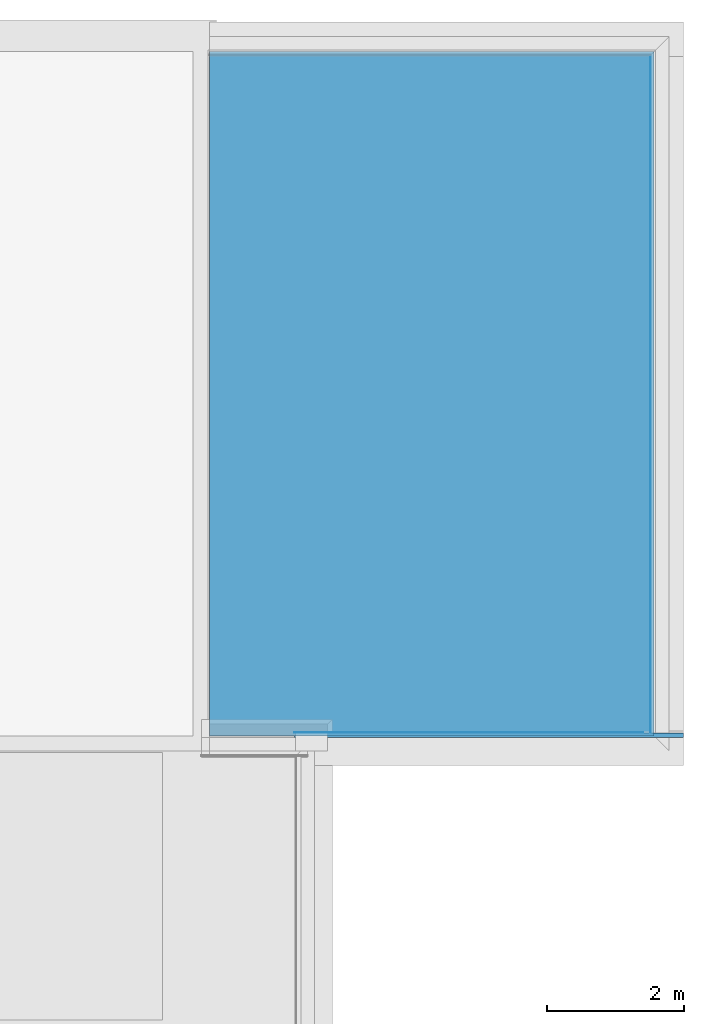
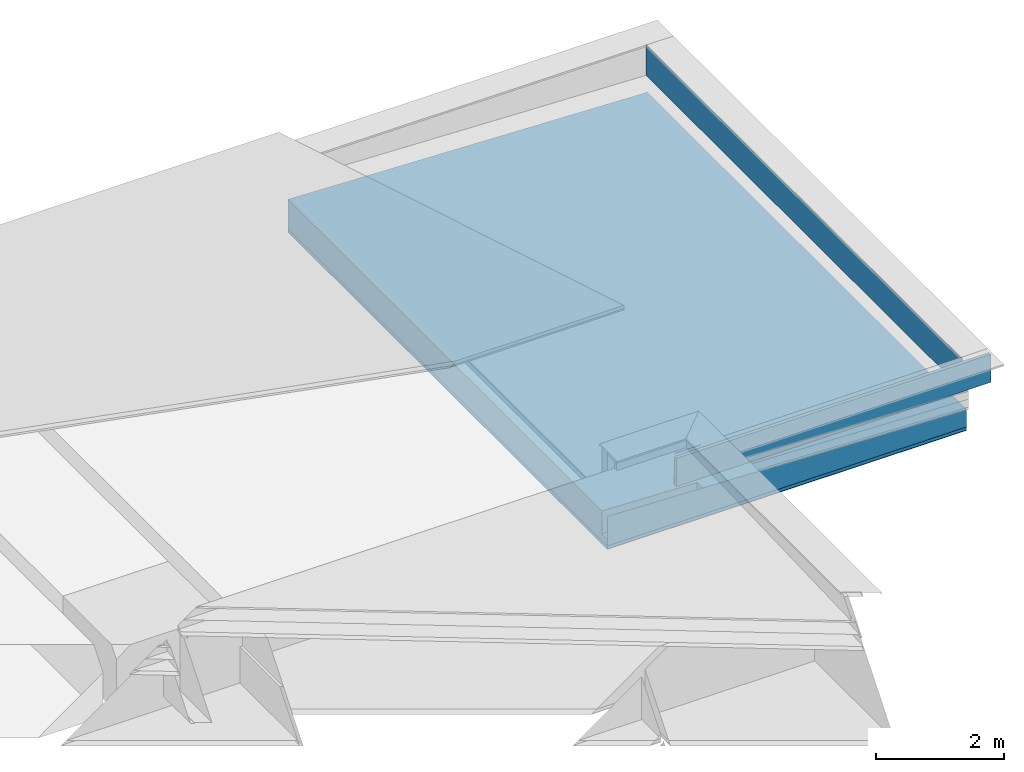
# One storey, part 11 of 13: 6 building element parts, 3 elements without a shape of their own.
"""IFC2X3 building model written with IfcOpenShell, lengths in metres."""

from ifc_helpers import new_model, entity, si_unit, converted_unit, derived_unit, money_unit, direction, frame, origin_with_axes, place, context, subcontext, project, spatial, polyline, outline, extrude, boolean, faceted_brep, material, type_object, element, aggregate, save


model = new_model("IFC2X3")

# Units and contexts
model_context = context("Model", 3, precision=1e-05, world=origin_with_axes(), true_north=direction((0.0, 1.0)))
body_context = subcontext(model_context, "Body", "Model", "MODEL_VIEW")
ifc_project = project(units=[si_unit("LENGTHUNIT", "METRE"), si_unit("AREAUNIT", "SQUARE_METRE"), si_unit("VOLUMEUNIT", "CUBIC_METRE"), converted_unit("PLANEANGLEUNIT", "DEGREE", entity("IfcPlaneAngleMeasure", 0.0174532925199), si_unit("PLANEANGLEUNIT", "RADIAN"), dimensions=[0, 0, 0, 0, 0, 0, 0]), money_unit("CHF"), converted_unit("TIMEUNIT", "Year", entity("IfcTimeMeasure", 31556926.0), si_unit("TIMEUNIT", "SECOND"), dimensions=[0, 0, 1, 0, 0, 0, 0]), si_unit("MASSUNIT", "GRAM", prefix="KILO"), si_unit("THERMODYNAMICTEMPERATUREUNIT", "DEGREE_CELSIUS"), si_unit("LUMINOUSINTENSITYUNIT", "LUMEN"), si_unit("ENERGYUNIT", "JOULE", prefix="MEGA"), derived_unit("THERMALCONDUCTANCEUNIT", [(si_unit("POWERUNIT", "WATT"), 1), (si_unit("LENGTHUNIT", "METRE"), -1), (si_unit("THERMODYNAMICTEMPERATUREUNIT", "KELVIN"), -1)]), derived_unit("SPECIFICHEATCAPACITYUNIT", [(si_unit("ENERGYUNIT", "JOULE"), 1), (si_unit("MASSUNIT", "GRAM", prefix="KILO"), -1), (si_unit("THERMODYNAMICTEMPERATUREUNIT", "KELVIN"), -1)]), derived_unit("MASSDENSITYUNIT", [(si_unit("MASSUNIT", "GRAM", prefix="KILO"), 1), (si_unit("VOLUMEUNIT", "CUBIC_METRE"), -1)])], contexts=[model_context])

# Site, building, storey
site_placement = place(None, origin_with_axes())
site = spatial("IfcSite", under=ifc_project, at=site_placement, Name="Site", CompositionType="ELEMENT")
building_placement = place(site_placement, origin_with_axes())
building = spatial("IfcBuilding", under=site, at=building_placement, Name="Bâtiment", CompositionType="ELEMENT")
storey_placement = place(building_placement, frame((0.0, 0.0, 3.0), z_axis=(0.0, 0.0, 1.0), x_axis=(1.0, 0.0, 0.0)))
storey = spatial("IfcBuildingStorey", under=building, at=storey_placement, Name="Toitures", CompositionType="ELEMENT", Elevation=3.0)

# Slab, building element parts
slab_type = type_object("IfcSlabType", Name="Plafond dalles minérale 2570", PredefinedType="FLOOR")
slab_placement = place(storey_placement, frame((32.3194697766, 25.1001256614, 2.17), z_axis=(0.0, 0.0, 1.0), x_axis=(1.0, 0.0, 0.0)))
slab = element("IfcSlab", 1, at=slab_placement, inside=storey, type_object=slab_type, Name="DALLE-004", PredefinedType="FLOOR")
ifc_material_1 = material(Name="Plaque fibre-gypse")
building_element_part_1_placement = place(slab_placement, origin_with_axes())
building_element_part_1 = element("IfcBuildingElementPart", 2, at=building_element_part_1_placement, material=ifc_material_1, Name="Plaque fibre-gypse", context=body_context, shape_type="CSG", body=[
    boolean("DIFFERENCE", extrude(outline(polyline([(0.0, 0.0), (0.0, -9.98012566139), (6.48, -9.98012566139), (6.48, 0.0), (0.0, 0.0)])), frame((0.0, 0.0, -2.57), z_axis=(0.0, 0.0, 1.0), x_axis=(1.0, 0.0, 0.0)), (0.0, 0.0, 1.0), 0.01), faceted_brep([(6.48, -9.98012566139, -2.16519420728), (6.48, 0.0, -2.16519420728), (6.48, 0.0, 0.0), (6.48, -9.98012566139, 0.0), (0.0, 0.0, -1.93839420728), (0.0, -9.98012566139, -1.93839420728), (0.0, -9.98000003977, -1.93839420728), (1.72, -9.98000003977, -1.99859420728), (1.71999999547, -9.80700003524, -1.99859420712), (0.0, -9.80700003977, -1.93839420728), (0.0, 0.0, 0.0), (0.0, -9.98012566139, 0.0), (0.0, -9.80700003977, -2.38), (0.0, -9.98000003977, -2.38), (1.72, -9.98000003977, -2.38), (1.72, -9.80700003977, -2.38)], [[[0, 1, 2, 3]], [[4, 1, 0, 5, 6, 7, 8, 9]], [[1, 4, 10, 2]], [[3, 2, 10, 11]], [[5, 0, 3, 11]], [[6, 5, 11, 10, 4, 9, 12, 13]], [[6, 13, 14, 7]], [[7, 14, 15, 8]], [[12, 9, 8, 15]], [[13, 12, 15, 14]]])),
])
ifc_material_2 = material(Name="Aluminium")
building_element_part_2_placement = place(slab_placement, origin_with_axes())
building_element_part_2 = element("IfcBuildingElementPart", 3, at=building_element_part_2_placement, material=ifc_material_2, Name="Aluminium", context=body_context, shape_type="CSG", body=[
    boolean("DIFFERENCE", extrude(outline(polyline([(0.0, 0.0), (0.0, -9.98012566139), (6.48, -9.98012566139), (6.48, 0.0), (0.0, 0.0)])), frame((0.0, 0.0, -2.56), z_axis=(0.0, 0.0, 1.0), x_axis=(1.0, 0.0, 0.0)), (0.0, 0.0, 1.0), 0.06), faceted_brep([(6.48, -9.98012566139, -2.16519420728), (6.48, 0.0, -2.16519420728), (6.48, 0.0, 0.0), (6.48, -9.98012566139, 0.0), (0.0, 0.0, -1.93839420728), (0.0, -9.98012566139, -1.93839420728), (0.0, -9.98000003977, -1.93839420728), (1.72, -9.98000003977, -1.99859420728), (1.71999999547, -9.80700003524, -1.99859420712), (0.0, -9.80700003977, -1.93839420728), (0.0, 0.0, 0.0), (0.0, -9.98012566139, 0.0), (0.0, -9.80700003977, -2.38), (0.0, -9.98000003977, -2.38), (1.72, -9.98000003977, -2.38), (1.72, -9.80700003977, -2.38)], [[[0, 1, 2, 3]], [[4, 1, 0, 5, 6, 7, 8, 9]], [[1, 4, 10, 2]], [[3, 2, 10, 11]], [[5, 0, 3, 11]], [[6, 5, 11, 10, 4, 9, 12, 13]], [[6, 13, 14, 7]], [[7, 14, 15, 8]], [[12, 9, 8, 15]], [[13, 12, 15, 14]]])),
])
ifc_material_3 = material(Name="Vide faux plafond")
building_element_part_3_placement = place(slab_placement, origin_with_axes())
building_element_part_3 = element("IfcBuildingElementPart", 4, at=building_element_part_3_placement, material=ifc_material_3, Name="Vide faux plafond", context=body_context, shape_type="CSG", body=[
    boolean("DIFFERENCE", extrude(outline(polyline([(0.0, 0.0), (0.0, -9.98012566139), (6.48, -9.98012566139), (6.48, 0.0), (0.0, 0.0)])), frame((0.0, 0.0, -2.5), z_axis=(0.0, 0.0, 1.0), x_axis=(1.0, 0.0, 0.0)), (0.0, 0.0, 1.0), 2.5), faceted_brep([(6.48, -9.98012566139, -2.16519420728), (6.48, 0.0, -2.16519420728), (6.48, 0.0, 0.0), (6.48, -9.98012566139, 0.0), (0.0, 0.0, -1.93839420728), (0.0, -9.98012566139, -1.93839420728), (0.0, -9.98000003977, -1.93839420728), (1.72, -9.98000003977, -1.99859420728), (1.71999999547, -9.80700003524, -1.99859420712), (0.0, -9.80700003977, -1.93839420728), (0.0, 0.0, 0.0), (0.0, -9.98012566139, 0.0), (0.0, -9.80700003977, -2.38), (0.0, -9.98000003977, -2.38), (1.72, -9.98000003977, -2.38), (1.72, -9.80700003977, -2.38)], [[[0, 1, 2, 3]], [[4, 1, 0, 5, 6, 7, 8, 9]], [[1, 4, 10, 2]], [[3, 2, 10, 11]], [[5, 0, 3, 11]], [[6, 5, 11, 10, 4, 9, 12, 13]], [[6, 13, 14, 7]], [[7, 14, 15, 8]], [[12, 9, 8, 15]], [[13, 12, 15, 14]]])),
])
aggregate(slab, [building_element_part_1, building_element_part_2, building_element_part_3])

# Beam, building element part
beam_type = type_object("IfcBeamType", Name="couvertine mur iso 505 x 590", PredefinedType="BEAM")
beam_1_placement = place(storey_placement, frame((38.9194697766, 25.2201256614, 0.97), z_axis=(0.0, 0.0, 1.0), x_axis=(-1.0, 0.0, 0.0)))
beam_1 = element("IfcBeam", 5, at=beam_1_placement, inside=storey, type_object=beam_type, Name="POUTRE-002", ObjectType="BEAM")
ifc_material_4 = material(Name="Etanchéité")
building_element_part_4_placement = place(beam_1_placement, origin_with_axes())
building_element_part_4 = element("IfcBuildingElementPart", 6, at=building_element_part_4_placement, material=ifc_material_4, Name="Etanchéité", context=body_context, shape_type="CSG", body=[
    boolean("DIFFERENCE", boolean("DIFFERENCE", boolean("DIFFERENCE", boolean("DIFFERENCE", boolean("DIFFERENCE", boolean("DIFFERENCE", boolean("DIFFERENCE", boolean("DIFFERENCE", extrude(outline(polyline([(0.164999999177, -0.0549999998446), (0.164999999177, -0.589639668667), (0.174999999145, -0.589639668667), (0.174999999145, -0.005), (0.164999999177, -0.005), (0.164999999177, -0.0549999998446)])), frame((0.0, 10.52702, 0.0), z_axis=(0.0, -1.0, 0.0), x_axis=(1.0, 0.0, 0.0)), (0.0, 0.0, 1.0), 10.83704), faceted_brep([(0.164999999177, 10.0520000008, -0.0549999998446), (0.164999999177, 10.0520000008, -0.005), (0.164999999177, 10.52702, -0.005), (0.164999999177, 10.52702, -0.0549999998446), (0.174999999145, 10.0420000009, -0.005), (0.164999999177, 10.0520000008, -0.589639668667), (0.174999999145, 10.0420000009, -0.589639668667), (0.174999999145, 10.52702, -0.005), (0.174999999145, 10.52702, -0.589639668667), (0.164999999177, 10.52702, -0.589639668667)], [[[0, 1, 2, 3]], [[4, 1, 0, 5, 6]], [[1, 4, 7, 2]], [[8, 9, 3, 2, 7]], [[5, 0, 3, 9]], [[6, 5, 9, 8]], [[4, 6, 8, 7]]])), faceted_brep([(0.174999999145, 0.174999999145, -0.005), (0.164999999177, 0.164999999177, -0.005), (0.164999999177, -0.31002, -0.005), (0.174999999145, -0.31002, -0.005), (0.164999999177, 0.164999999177, -0.0549999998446), (0.174999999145, 0.174999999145, -0.589639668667), (0.164999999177, 0.164999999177, -0.589639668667), (0.164999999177, -0.31002, -0.0549999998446), (0.164999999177, -0.31002, -0.589639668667), (0.174999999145, -0.31002, -0.589639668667)], [[[0, 1, 2, 3]], [[4, 1, 0, 5, 6]], [[1, 4, 7, 2]], [[3, 2, 7, 8, 9]], [[5, 0, 3, 9]], [[6, 5, 9, 8]], [[4, 6, 8, 7]]])), faceted_brep([(-0.31, 10.52702, -0.03000000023), (-0.31, 10.527, -0.03000000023), (-0.31, 10.527, -1.56462309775e-09), (-0.31, 10.52702, -1.56462309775e-09), (-0.3049999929, 10.52702, -0.03000000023), (-0.3049999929, 10.5219999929, -0.03000000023), (0.194999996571, 10.0220000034, -0.03000000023), (0.194999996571, 10.0220000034, -1.56462309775e-09), (-0.3049999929, 10.5219999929, -0.0049999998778), (-0.1, 10.317, -0.005), (0.165, 10.052, -0.005), (0.175000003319, 10.0419999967, -0.0049999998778), (0.189999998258, 10.0270000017, -0.0049999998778), (0.189999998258, 10.0270000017, -0.03000000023), (0.194999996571, 10.52702, -1.56462309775e-09), (0.194999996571, 10.52702, -0.03000000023), (0.189999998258, 10.52702, -0.03000000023), (0.189999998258, 10.52702, -0.0049999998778), (0.175000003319, 10.52702, -0.0049999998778), (0.164999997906, 10.52702, -0.0049999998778), (-0.100000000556, 10.52702, -0.0049999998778), (-0.3049999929, 10.52702, -0.0049999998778)], [[[0, 1, 2, 3]], [[4, 5, 1, 0]], [[6, 7, 2, 1, 5, 8, 9, 10, 11, 12, 13]], [[3, 2, 7, 14]], [[0, 3, 14, 15, 16, 17, 18, 19, 20, 21, 4]], [[21, 8, 5, 4]], [[14, 7, 6, 15]], [[20, 9, 8, 21]], [[19, 10, 9, 20]], [[18, 11, 10, 19]], [[17, 12, 11, 18]], [[16, 13, 12, 17]], [[15, 6, 13, 16]]])), faceted_brep([(0.194999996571, -0.31002, -1.56462309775e-09), (0.194999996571, 0.194999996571, -1.56462309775e-09), (-0.31, -0.31, -1.56462309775e-09), (-0.31, -0.31002, -1.56462309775e-09), (0.194999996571, -0.31002, -0.03000000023), (0.194999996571, 0.194999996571, -0.03000000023), (-0.3049999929, -0.3049999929, -0.03000000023), (-0.31, -0.31, -0.03000000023), (0.189999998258, 0.189999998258, -0.03000000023), (0.189999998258, 0.189999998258, -0.0049999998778), (0.175000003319, 0.175000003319, -0.0049999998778), (0.165, 0.165, -0.005), (-0.1, -0.1, -0.005), (-0.3049999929, -0.3049999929, -0.0049999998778), (-0.31, -0.31002, -0.03000000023), (0.189999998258, -0.31002, -0.03000000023), (-0.3049999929, -0.31002, -0.03000000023), (-0.3049999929, -0.31002, -0.0049999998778), (-0.100000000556, -0.31002, -0.0049999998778), (0.164999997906, -0.31002, -0.0049999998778), (0.175000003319, -0.31002, -0.0049999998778), (0.189999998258, -0.31002, -0.0049999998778)], [[[0, 1, 2, 3]], [[4, 5, 1, 0]], [[6, 7, 2, 1, 5, 8, 9, 10, 11, 12, 13]], [[3, 2, 7, 14]], [[15, 4, 0, 3, 14, 16, 17, 18, 19, 20, 21]], [[15, 8, 5, 4]], [[14, 7, 6, 16]], [[21, 9, 8, 15]], [[20, 10, 9, 21]], [[19, 11, 10, 20]], [[18, 12, 11, 19]], [[17, 13, 12, 18]], [[16, 6, 13, 17]]])), faceted_brep([(0.0999999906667, 10.52702, -0.589639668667), (0.0999999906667, 10.1170000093, -0.589639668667), (0.0999999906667, 10.1170000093, -0.0549999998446), (0.0999999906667, 10.52702, -0.0549999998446), (0.164999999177, 10.52702, -0.589639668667), (0.164999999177, 10.0520000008, -0.589639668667), (0.16499999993, 10.0520000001, -0.0549999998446), (0.164999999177, 10.52702, -0.0549999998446)], [[[0, 1, 2, 3]], [[4, 5, 1, 0]], [[5, 6, 2, 1]], [[3, 2, 6, 7]], [[7, 4, 0, 3]], [[7, 6, 5, 4]]])), faceted_brep([(0.164999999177, -0.31002, -0.0549999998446), (0.16499999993, 0.16499999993, -0.0549999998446), (0.0999999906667, 0.0999999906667, -0.0549999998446), (0.0999999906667, -0.31002, -0.0549999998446), (0.164999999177, -0.31002, -0.589639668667), (0.164999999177, 0.164999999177, -0.589639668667), (0.0999999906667, 0.0999999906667, -0.589639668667), (0.0999999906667, -0.31002, -0.589639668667)], [[[0, 1, 2, 3]], [[4, 5, 1, 0]], [[5, 6, 2, 1]], [[3, 2, 6, 7]], [[0, 3, 7, 4]], [[7, 6, 5, 4]]])), faceted_brep([(-0.1, 10.52702, -0.055), (-0.1, 10.317, -0.055), (-0.1, 10.317, -0.005), (-0.1, 10.52702, -0.005), (0.0999999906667, 10.52702, -0.0549999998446), (0.0999999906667, 10.1170000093, -0.0549999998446), (0.165, 10.052, -0.005), (0.16499999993, 10.0520000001, -0.055), (0.165, 10.52702, -0.005), (0.165, 10.52702, -0.055)], [[[0, 1, 2, 3]], [[4, 5, 1, 0]], [[6, 2, 1, 5, 7]], [[3, 2, 6, 8]], [[4, 0, 3, 8, 9]], [[9, 7, 5, 4]], [[8, 6, 7, 9]]])), faceted_brep([(0.165, -0.31002, -0.005), (0.165, 0.165, -0.005), (-0.1, -0.1, -0.005), (-0.1, -0.31002, -0.005), (0.165, -0.31002, -0.055), (0.16499999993, 0.16499999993, -0.055), (0.0999999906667, 0.0999999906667, -0.0549999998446), (-0.1, -0.1, -0.055), (-0.1, -0.31002, -0.055), (0.0999999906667, -0.31002, -0.0549999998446)], [[[0, 1, 2, 3]], [[4, 5, 1, 0]], [[6, 7, 2, 1, 5]], [[3, 2, 7, 8]], [[4, 0, 3, 8, 9]], [[9, 6, 5, 4]], [[8, 7, 6, 9]]])),
])
aggregate(beam_1, [building_element_part_4])

# Beam, building element parts
beam_2_placement = place(storey_placement, frame((38.9194697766, 15.0031256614, 0.97), z_axis=(0.0, 0.0, 1.0), x_axis=(0.0, 1.0, 0.0)))
beam_2 = element("IfcBeam", 7, at=beam_2_placement, inside=storey, type_object=beam_type, Name="POUTRE-003", ObjectType="BEAM")
building_element_part_5_placement = place(beam_2_placement, origin_with_axes())
building_element_part_5 = element("IfcBuildingElementPart", 8, at=building_element_part_5_placement, material=ifc_material_4, Name="Etanchéité", context=body_context, shape_type="CSG", body=[
    boolean("DIFFERENCE", boolean("DIFFERENCE", boolean("DIFFERENCE", boolean("DIFFERENCE", boolean("DIFFERENCE", boolean("DIFFERENCE", boolean("DIFFERENCE", boolean("DIFFERENCE", extrude(outline(polyline([(0.164999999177, -0.0549999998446), (0.164999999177, -0.589639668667), (0.174999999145, -0.589639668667), (0.174999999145, -0.005), (0.164999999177, -0.005), (0.164999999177, -0.0549999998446)])), frame((0.0, 5.36502, 0.0), z_axis=(0.0, -1.0, 0.0), x_axis=(1.0, 0.0, 0.0)), (0.0, 0.0, 1.0), 5.67504), faceted_brep([(0.174999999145, 5.365, -0.0896396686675), (0.174999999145, 5.365, -0.411392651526), (0.174999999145, 0.272228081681, -0.589639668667), (0.174999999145, 5.36502, -0.589639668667), (0.174999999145, 5.36502, -0.005), (0.174999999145, 5.34499999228, -0.005), (0.174999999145, 5.34499999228, -0.0896396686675), (0.164999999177, 5.365, -0.0896396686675), (0.164999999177, 5.365, -0.411392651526), (0.164999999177, 0.272228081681, -0.589639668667), (0.164999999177, 5.36502, -0.589639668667), (0.164999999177, 5.36502, -0.0549999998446), (0.164999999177, 5.36502, -0.005), (0.164999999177, 5.34499999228, -0.005), (0.164999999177, 5.34499999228, -0.0549999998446), (0.164999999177, 5.34499999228, -0.0896396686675)], [[[0, 1, 2, 3, 4, 5, 6]], [[1, 0, 7, 8]], [[9, 2, 1, 8]], [[2, 9, 10, 3]], [[3, 10, 11, 12, 4]], [[13, 5, 4, 12]], [[6, 5, 13, 14, 15]], [[0, 6, 15, 7]], [[15, 14, 11, 10, 9, 8, 7]], [[14, 13, 12, 11]]])), faceted_brep([(0.174999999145, 0.174999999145, -0.005), (0.164999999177, 0.164999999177, -0.005), (0.164999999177, -0.31002, -0.005), (0.174999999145, -0.31002, -0.005), (0.164999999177, 0.164999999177, -0.0549999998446), (0.174999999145, 0.174999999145, -0.589639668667), (0.164999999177, 0.164999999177, -0.589639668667), (0.164999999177, -0.31002, -0.0549999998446), (0.164999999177, -0.31002, -0.589639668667), (0.174999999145, -0.31002, -0.589639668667)], [[[0, 1, 2, 3]], [[4, 1, 0, 5, 6]], [[1, 4, 7, 2]], [[3, 2, 7, 8, 9]], [[5, 0, 3, 9]], [[6, 5, 9, 8]], [[4, 6, 8, 7]]])), faceted_brep([(0.116874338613, 5.34499999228, -1.56462309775e-09), (0.116999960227, 5.34499999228, -1.56462309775e-09), (0.116999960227, 4.88, -1.56462309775e-09), (0.194999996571, 4.88, -1.56462309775e-09), (0.194999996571, 5.36502, -1.56462309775e-09), (-0.31, 5.36502, -1.56462309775e-09), (-0.31, 4.88, -1.56462309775e-09), (0.116874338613, 4.88, -1.56462309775e-09), (0.116874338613, 5.07, -1.56462309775e-09), (0.116999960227, 5.34499999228, -0.005), (0.116874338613, 5.34499999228, -0.005), (0.116999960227, 4.88, -0.00499999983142), (0.189999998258, 4.88, -0.03000000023), (0.194999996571, 4.88, -0.03000000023), (0.165, 4.88, -0.005), (0.175000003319, 4.88, -0.0049999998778), (0.189999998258, 4.88, -0.0049999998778), (0.194999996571, 5.36502, -0.03000000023), (-0.31, 5.36502, -0.03000000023), (0.189999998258, 5.36502, -0.03000000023), (0.189999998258, 5.36502, -0.0049999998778), (0.175000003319, 5.36502, -0.0049999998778), (0.164999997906, 5.36502, -0.0049999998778), (-0.100000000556, 5.36502, -0.0049999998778), (-0.3049999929, 5.36502, -0.0049999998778), (-0.3049999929, 5.36502, -0.03000000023), (-0.31, 4.88, -0.03000000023), (0.116874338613, 4.88, -0.00499999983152), (-0.3049999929, 4.88, -0.03000000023), (-0.3049999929, 4.88, -0.0049999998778), (-0.1, 4.88, -0.005), (0.116874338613, 5.07, -0.00499999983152)], [[[0, 1, 2, 3, 4, 5, 6, 7, 8]], [[9, 1, 0, 10]], [[11, 2, 1, 9]], [[12, 13, 3, 2, 11, 14, 15, 16]], [[4, 3, 13, 17]], [[18, 5, 4, 17, 19, 20, 21, 22, 23, 24, 25]], [[18, 26, 6, 5]], [[27, 7, 6, 26, 28, 29, 30]], [[31, 8, 7, 27]], [[10, 0, 8, 31]], [[31, 27, 30, 23, 22, 14, 11, 9, 10]], [[17, 13, 12, 19]], [[21, 15, 14, 22]], [[20, 16, 15, 21]], [[19, 12, 16, 20]], [[23, 30, 29, 24]], [[24, 29, 28, 25]], [[25, 28, 26, 18]]])), faceted_brep([(0.194999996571, -0.31002, -1.56462309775e-09), (0.194999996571, 0.194999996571, -1.56462309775e-09), (-0.31, -0.31, -1.56462309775e-09), (-0.31, -0.31002, -1.56462309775e-09), (0.194999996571, -0.31002, -0.03000000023), (0.194999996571, 0.194999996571, -0.03000000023), (-0.3049999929, -0.3049999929, -0.03000000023), (-0.31, -0.31, -0.03000000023), (0.189999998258, 0.189999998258, -0.03000000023), (0.189999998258, 0.189999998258, -0.0049999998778), (0.175000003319, 0.175000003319, -0.0049999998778), (0.165, 0.165, -0.005), (-0.1, -0.1, -0.005), (-0.3049999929, -0.3049999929, -0.0049999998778), (-0.31, -0.31002, -0.03000000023), (0.189999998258, -0.31002, -0.03000000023), (-0.3049999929, -0.31002, -0.03000000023), (-0.3049999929, -0.31002, -0.0049999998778), (-0.100000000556, -0.31002, -0.0049999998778), (0.164999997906, -0.31002, -0.0049999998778), (0.175000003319, -0.31002, -0.0049999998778), (0.189999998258, -0.31002, -0.0049999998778)], [[[0, 1, 2, 3]], [[4, 5, 1, 0]], [[6, 7, 2, 1, 5, 8, 9, 10, 11, 12, 13]], [[3, 2, 7, 14]], [[15, 4, 0, 3, 14, 16, 17, 18, 19, 20, 21]], [[15, 8, 5, 4]], [[14, 7, 6, 16]], [[21, 9, 8, 15]], [[20, 10, 9, 21]], [[19, 11, 10, 20]], [[18, 12, 11, 19]], [[17, 13, 12, 18]], [[16, 6, 13, 17]]])), faceted_brep([(0.164999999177, 5.34499999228, -0.0896396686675), (0.164999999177, 5.365, -0.0896396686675), (0.164999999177, 5.365, -0.411392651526), (0.164999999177, 0.272228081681, -0.589639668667), (0.164999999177, 5.36502, -0.589639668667), (0.164999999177, 5.36502, -0.0549999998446), (0.164999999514, 5.34499999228, -0.0549999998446), (0.0999999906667, 5.365, -0.0896396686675), (0.0999999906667, 5.34499999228, -0.0896396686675), (0.0999999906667, 5.365, -0.411392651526), (0.0999999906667, 0.272228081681, -0.589639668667), (0.0999999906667, 5.36502, -0.589639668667), (0.0999999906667, 5.36502, -0.0549999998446), (0.0999999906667, 5.34499999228, -0.0549999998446)], [[[0, 1, 2, 3, 4, 5, 6]], [[7, 1, 0, 8]], [[9, 2, 1, 7]], [[9, 10, 3, 2]], [[4, 3, 10, 11]], [[5, 4, 11, 12]], [[12, 13, 6, 5]], [[8, 0, 6, 13]], [[7, 8, 13, 12, 11, 10, 9]]])), faceted_brep([(0.164999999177, -0.31002, -0.0549999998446), (0.16499999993, 0.16499999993, -0.0549999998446), (0.0999999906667, 0.0999999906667, -0.0549999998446), (0.0999999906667, -0.31002, -0.0549999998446), (0.164999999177, -0.31002, -0.589639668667), (0.164999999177, 0.164999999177, -0.589639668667), (0.0999999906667, 0.0999999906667, -0.589639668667), (0.0999999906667, -0.31002, -0.589639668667)], [[[0, 1, 2, 3]], [[4, 5, 1, 0]], [[5, 6, 2, 1]], [[3, 2, 6, 7]], [[0, 3, 7, 4]], [[7, 6, 5, 4]]])), faceted_brep([(-0.1, 5.36502, -0.005), (-0.1, 5.34499999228, -0.005), (0.165, 5.34499999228, -0.005), (0.165, 5.36502, -0.005), (-0.1, 5.36502, -0.055), (-0.1, 5.34499999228, -0.055), (0.0999999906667, 5.34499999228, -0.0549999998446), (0.164999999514, 5.34499999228, -0.055), (0.165, 5.36502, -0.055), (0.0999999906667, 5.36502, -0.0549999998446)], [[[0, 1, 2, 3]], [[4, 5, 1, 0]], [[6, 7, 2, 1, 5]], [[3, 2, 7, 8]], [[9, 4, 0, 3, 8]], [[9, 6, 5, 4]], [[8, 7, 6, 9]]])), faceted_brep([(0.165, -0.31002, -0.005), (0.165, 0.165, -0.005), (-0.1, -0.1, -0.005), (-0.1, -0.31002, -0.005), (0.165, -0.31002, -0.055), (0.16499999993, 0.16499999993, -0.055), (0.0999999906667, 0.0999999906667, -0.0549999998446), (-0.1, -0.1, -0.055), (-0.1, -0.31002, -0.055), (0.0999999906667, -0.31002, -0.0549999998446)], [[[0, 1, 2, 3]], [[4, 5, 1, 0]], [[6, 7, 2, 1, 5]], [[3, 2, 7, 8]], [[4, 0, 3, 8, 9]], [[9, 6, 5, 4]], [[8, 7, 6, 9]]])),
])
ifc_material_5 = material(Name="Isolation - Polyuréthane (extérieur)")
building_element_part_6_placement = place(beam_2_placement, origin_with_axes())
building_element_part_6 = element("IfcBuildingElementPart", 9, at=building_element_part_6_placement, material=ifc_material_5, Name="Isolation - Polyuréthane (extérieur)", context=body_context, shape_type="CSG", body=[
    boolean("DIFFERENCE", boolean("DIFFERENCE", boolean("DIFFERENCE", boolean("DIFFERENCE", boolean("DIFFERENCE", boolean("DIFFERENCE", boolean("DIFFERENCE", boolean("DIFFERENCE", extrude(outline(polyline([(0.0999999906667, -0.589639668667), (0.164999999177, -0.589639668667), (0.164999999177, -0.0549999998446), (0.0999999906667, -0.0549999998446), (0.0999999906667, -0.589639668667)])), frame((0.0, 5.36502, 0.0), z_axis=(0.0, -1.0, 0.0), x_axis=(1.0, 0.0, 0.0)), (0.0, 0.0, 1.0), 5.67504), faceted_brep([(0.174999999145, 5.365, -0.0896396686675), (0.174999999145, 5.365, -0.411392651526), (0.174999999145, 0.272228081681, -0.589639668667), (0.174999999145, 5.36502, -0.589639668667), (0.174999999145, 5.36502, -0.005), (0.174999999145, 5.34499999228, -0.005), (0.174999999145, 5.34499999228, -0.0896396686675), (0.164999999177, 5.365, -0.0896396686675), (0.164999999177, 5.365, -0.411392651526), (0.164999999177, 0.272228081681, -0.589639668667), (0.164999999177, 5.36502, -0.589639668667), (0.164999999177, 5.36502, -0.0549999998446), (0.164999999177, 5.36502, -0.005), (0.164999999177, 5.34499999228, -0.005), (0.164999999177, 5.34499999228, -0.0549999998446), (0.164999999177, 5.34499999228, -0.0896396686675)], [[[0, 1, 2, 3, 4, 5, 6]], [[1, 0, 7, 8]], [[9, 2, 1, 8]], [[2, 9, 10, 3]], [[3, 10, 11, 12, 4]], [[13, 5, 4, 12]], [[6, 5, 13, 14, 15]], [[0, 6, 15, 7]], [[15, 14, 11, 10, 9, 8, 7]], [[14, 13, 12, 11]]])), faceted_brep([(0.174999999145, 0.174999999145, -0.005), (0.164999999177, 0.164999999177, -0.005), (0.164999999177, -0.31002, -0.005), (0.174999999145, -0.31002, -0.005), (0.164999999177, 0.164999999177, -0.0549999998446), (0.174999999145, 0.174999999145, -0.589639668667), (0.164999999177, 0.164999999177, -0.589639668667), (0.164999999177, -0.31002, -0.0549999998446), (0.164999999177, -0.31002, -0.589639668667), (0.174999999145, -0.31002, -0.589639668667)], [[[0, 1, 2, 3]], [[4, 1, 0, 5, 6]], [[1, 4, 7, 2]], [[3, 2, 7, 8, 9]], [[5, 0, 3, 9]], [[6, 5, 9, 8]], [[4, 6, 8, 7]]])), faceted_brep([(0.116874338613, 5.34499999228, -1.56462309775e-09), (0.116999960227, 5.34499999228, -1.56462309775e-09), (0.116999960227, 4.88, -1.56462309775e-09), (0.194999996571, 4.88, -1.56462309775e-09), (0.194999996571, 5.36502, -1.56462309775e-09), (-0.31, 5.36502, -1.56462309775e-09), (-0.31, 4.88, -1.56462309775e-09), (0.116874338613, 4.88, -1.56462309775e-09), (0.116874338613, 5.07, -1.56462309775e-09), (0.116999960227, 5.34499999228, -0.005), (0.116874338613, 5.34499999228, -0.005), (0.116999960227, 4.88, -0.00499999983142), (0.189999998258, 4.88, -0.03000000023), (0.194999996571, 4.88, -0.03000000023), (0.165, 4.88, -0.005), (0.175000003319, 4.88, -0.0049999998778), (0.189999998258, 4.88, -0.0049999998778), (0.194999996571, 5.36502, -0.03000000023), (-0.31, 5.36502, -0.03000000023), (0.189999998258, 5.36502, -0.03000000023), (0.189999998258, 5.36502, -0.0049999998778), (0.175000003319, 5.36502, -0.0049999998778), (0.164999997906, 5.36502, -0.0049999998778), (-0.100000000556, 5.36502, -0.0049999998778), (-0.3049999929, 5.36502, -0.0049999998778), (-0.3049999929, 5.36502, -0.03000000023), (-0.31, 4.88, -0.03000000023), (0.116874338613, 4.88, -0.00499999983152), (-0.3049999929, 4.88, -0.03000000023), (-0.3049999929, 4.88, -0.0049999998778), (-0.1, 4.88, -0.005), (0.116874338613, 5.07, -0.00499999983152)], [[[0, 1, 2, 3, 4, 5, 6, 7, 8]], [[9, 1, 0, 10]], [[11, 2, 1, 9]], [[12, 13, 3, 2, 11, 14, 15, 16]], [[4, 3, 13, 17]], [[18, 5, 4, 17, 19, 20, 21, 22, 23, 24, 25]], [[18, 26, 6, 5]], [[27, 7, 6, 26, 28, 29, 30]], [[31, 8, 7, 27]], [[10, 0, 8, 31]], [[31, 27, 30, 23, 22, 14, 11, 9, 10]], [[17, 13, 12, 19]], [[21, 15, 14, 22]], [[20, 16, 15, 21]], [[19, 12, 16, 20]], [[23, 30, 29, 24]], [[24, 29, 28, 25]], [[25, 28, 26, 18]]])), faceted_brep([(0.194999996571, -0.31002, -1.56462309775e-09), (0.194999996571, 0.194999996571, -1.56462309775e-09), (-0.31, -0.31, -1.56462309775e-09), (-0.31, -0.31002, -1.56462309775e-09), (0.194999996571, -0.31002, -0.03000000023), (0.194999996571, 0.194999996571, -0.03000000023), (-0.3049999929, -0.3049999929, -0.03000000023), (-0.31, -0.31, -0.03000000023), (0.189999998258, 0.189999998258, -0.03000000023), (0.189999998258, 0.189999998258, -0.0049999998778), (0.175000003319, 0.175000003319, -0.0049999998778), (0.165, 0.165, -0.005), (-0.1, -0.1, -0.005), (-0.3049999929, -0.3049999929, -0.0049999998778), (-0.31, -0.31002, -0.03000000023), (0.189999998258, -0.31002, -0.03000000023), (-0.3049999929, -0.31002, -0.03000000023), (-0.3049999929, -0.31002, -0.0049999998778), (-0.100000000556, -0.31002, -0.0049999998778), (0.164999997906, -0.31002, -0.0049999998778), (0.175000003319, -0.31002, -0.0049999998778), (0.189999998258, -0.31002, -0.0049999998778)], [[[0, 1, 2, 3]], [[4, 5, 1, 0]], [[6, 7, 2, 1, 5, 8, 9, 10, 11, 12, 13]], [[3, 2, 7, 14]], [[15, 4, 0, 3, 14, 16, 17, 18, 19, 20, 21]], [[15, 8, 5, 4]], [[14, 7, 6, 16]], [[21, 9, 8, 15]], [[20, 10, 9, 21]], [[19, 11, 10, 20]], [[18, 12, 11, 19]], [[17, 13, 12, 18]], [[16, 6, 13, 17]]])), faceted_brep([(0.164999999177, 5.34499999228, -0.0896396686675), (0.164999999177, 5.365, -0.0896396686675), (0.164999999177, 5.365, -0.411392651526), (0.164999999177, 0.272228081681, -0.589639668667), (0.164999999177, 5.36502, -0.589639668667), (0.164999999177, 5.36502, -0.0549999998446), (0.164999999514, 5.34499999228, -0.0549999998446), (0.0999999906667, 5.365, -0.0896396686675), (0.0999999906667, 5.34499999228, -0.0896396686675), (0.0999999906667, 5.365, -0.411392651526), (0.0999999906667, 0.272228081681, -0.589639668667), (0.0999999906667, 5.36502, -0.589639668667), (0.0999999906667, 5.36502, -0.0549999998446), (0.0999999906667, 5.34499999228, -0.0549999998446)], [[[0, 1, 2, 3, 4, 5, 6]], [[7, 1, 0, 8]], [[9, 2, 1, 7]], [[9, 10, 3, 2]], [[4, 3, 10, 11]], [[5, 4, 11, 12]], [[12, 13, 6, 5]], [[8, 0, 6, 13]], [[7, 8, 13, 12, 11, 10, 9]]])), faceted_brep([(0.164999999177, -0.31002, -0.0549999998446), (0.16499999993, 0.16499999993, -0.0549999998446), (0.0999999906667, 0.0999999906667, -0.0549999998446), (0.0999999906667, -0.31002, -0.0549999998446), (0.164999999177, -0.31002, -0.589639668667), (0.164999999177, 0.164999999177, -0.589639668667), (0.0999999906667, 0.0999999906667, -0.589639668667), (0.0999999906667, -0.31002, -0.589639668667)], [[[0, 1, 2, 3]], [[4, 5, 1, 0]], [[5, 6, 2, 1]], [[3, 2, 6, 7]], [[0, 3, 7, 4]], [[7, 6, 5, 4]]])), faceted_brep([(-0.1, 5.36502, -0.005), (-0.1, 5.34499999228, -0.005), (0.165, 5.34499999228, -0.005), (0.165, 5.36502, -0.005), (-0.1, 5.36502, -0.055), (-0.1, 5.34499999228, -0.055), (0.0999999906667, 5.34499999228, -0.0549999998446), (0.164999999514, 5.34499999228, -0.055), (0.165, 5.36502, -0.055), (0.0999999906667, 5.36502, -0.0549999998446)], [[[0, 1, 2, 3]], [[4, 5, 1, 0]], [[6, 7, 2, 1, 5]], [[3, 2, 7, 8]], [[9, 4, 0, 3, 8]], [[9, 6, 5, 4]], [[8, 7, 6, 9]]])), faceted_brep([(0.165, -0.31002, -0.005), (0.165, 0.165, -0.005), (-0.1, -0.1, -0.005), (-0.1, -0.31002, -0.005), (0.165, -0.31002, -0.055), (0.16499999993, 0.16499999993, -0.055), (0.0999999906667, 0.0999999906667, -0.0549999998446), (-0.1, -0.1, -0.055), (-0.1, -0.31002, -0.055), (0.0999999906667, -0.31002, -0.0549999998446)], [[[0, 1, 2, 3]], [[4, 5, 1, 0]], [[6, 7, 2, 1, 5]], [[3, 2, 7, 8]], [[4, 0, 3, 8, 9]], [[9, 6, 5, 4]], [[8, 7, 6, 9]]])),
])
aggregate(beam_2, [building_element_part_5, building_element_part_6])

save(model, "model.ifc")
